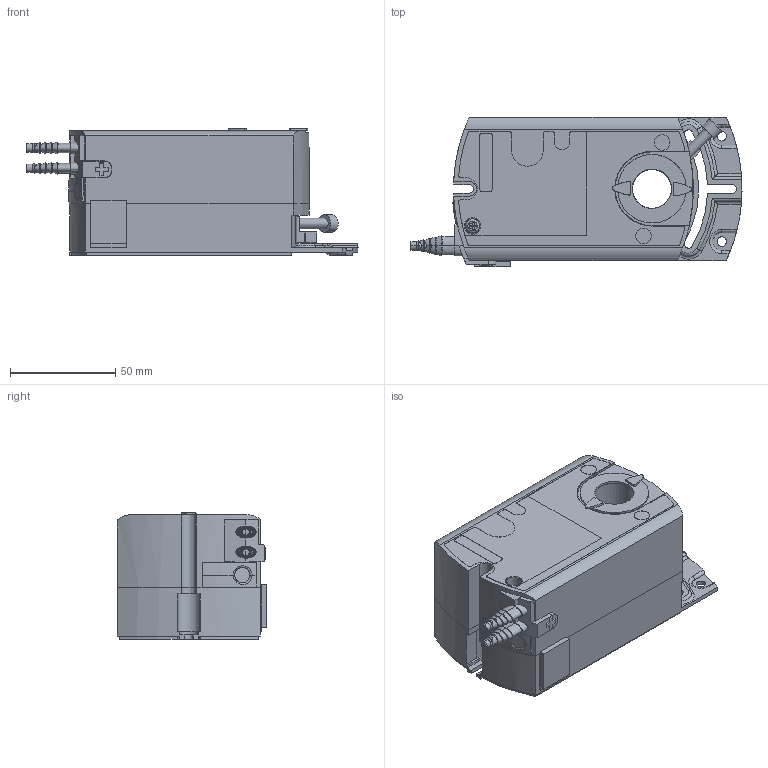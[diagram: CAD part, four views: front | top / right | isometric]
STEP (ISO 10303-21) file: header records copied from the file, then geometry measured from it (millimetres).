
FILE_DESCRIPTION(/* description */ (''),/* implementation_level */ '2;1');
FILE_NAME(/* name */ 'GDB181.stp',/* time_stamp */ '2014-09-16T12:48:01+02:00',/* author */ (''),/* organization */ (''),/* preprocessor_version */ 'ST-DEVELOPER v15',/* originating_system */ 'SIEMENS PLM Software NX 8.5',/* authorisation */ '');
FILE_SCHEMA (('AUTOMOTIVE_DESIGN { 1 0 10303 214 3 1 1 1 }'));
Length unit declared in the file: millimetre
Products named in the file (1): 8000077830_01
Bounding box: 157.62 x 71 x 59.97 mm (x, y, z)
Volume: 404276.8 mm3; surface area: 46641.7 mm2
Topology: 1 solids, 5 shells, 481 faces, 1263 edges, 807 vertices
Faces by surface type: plane 193, cylinder 138, bspline 101, torus 24, cone 19, extrusion 6
Full cylindrical faces by diameter (mm): 1 x1, 4.5 x2, 5 x1, 7 x1, 7.2 x1, 7.3 x1, 7.4 x1, 7.9 x1, 8.5 x1, 18.5 x1, 21 x1
Entity records: 24395 total; most frequent: CARTESIAN_POINT 9879, ORIENTED_EDGE 2480, DIRECTION 2113, EDGE_CURVE 1240, AXIS2_PLACEMENT_3D 817, VERTEX_POINT 800, EDGE_LOOP 522, PRESENTATION_STYLE_ASSIGNMENT 482
